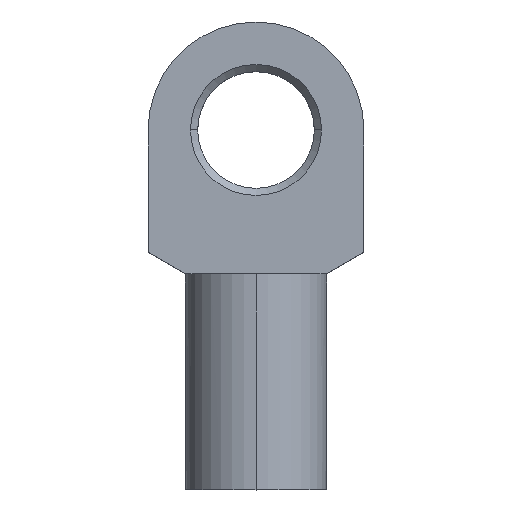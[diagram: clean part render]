
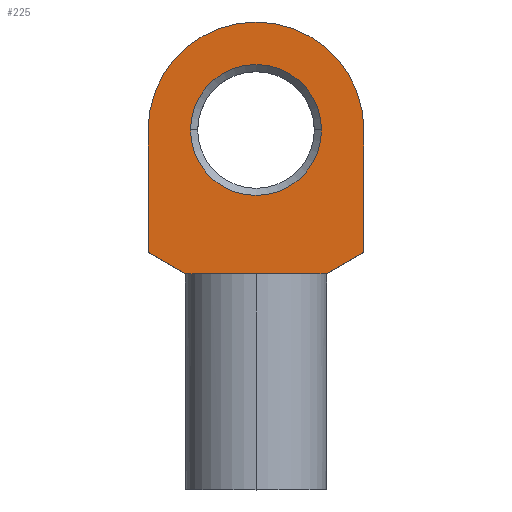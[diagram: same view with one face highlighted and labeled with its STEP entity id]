
A CAD part, top view. The second image highlights one B-rep face of the part: STEP entity #225.
In plain terms, the highlighted planar face has unit normal (0, 0, 1).
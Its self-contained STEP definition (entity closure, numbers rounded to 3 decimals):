
#12 = FACE_OUTER_BOUND ( 'NONE', #374, .T. ) ;
#25 = DIRECTION ( 'NONE',  ( 1., 0., 0. ) ) ;
#43 = EDGE_CURVE ( 'NONE', #141, #724, #185, .T. ) ;
#54 = CARTESIAN_POINT ( 'NONE',  ( -4.214, 15., 2.5 ) ) ;
#56 = EDGE_CURVE ( 'NONE', #382, #442, #308, .T. ) ;
#94 = VECTOR ( 'NONE', #473, 1000. ) ;
#120 = CARTESIAN_POINT ( 'NONE',  ( 4.9, 15., 2.5 ) ) ;
#122 = CIRCLE ( 'NONE', #817, 7.5 ) ;
#124 = EDGE_CURVE ( 'NONE', #532, #559, #743, .T. ) ;
#127 = ORIENTED_EDGE ( 'NONE', *, *, #380, .T. ) ;
#138 = CARTESIAN_POINT ( 'NONE',  ( -4.9, 15., 2.5 ) ) ;
#139 = DIRECTION ( 'NONE',  ( 0., 0., -1. ) ) ;
#141 = VERTEX_POINT ( 'NONE', #54 ) ;
#160 = CARTESIAN_POINT ( 'NONE',  ( 0., 25., 2.5 ) ) ;
#171 = EDGE_LOOP ( 'NONE', ( #632, #573 ) ) ;
#185 = LINE ( 'NONE', #721, #420 ) ;
#202 = ORIENTED_EDGE ( 'NONE', *, *, #655, .T. ) ;
#204 = CARTESIAN_POINT ( 'NONE',  ( 4.55, 25., 2.5 ) ) ;
#210 = DIRECTION ( 'NONE',  ( 1., 0., 0. ) ) ;
#225 = ADVANCED_FACE ( 'NONE', ( #413, #12 ), #257, .T. ) ;
#249 = LINE ( 'NONE', #657, #777 ) ;
#253 = AXIS2_PLACEMENT_3D ( 'NONE', #471, #139, #210 ) ;
#257 = PLANE ( 'NONE',  #451 ) ;
#267 = DIRECTION ( 'NONE',  ( 1., 0., 0. ) ) ;
#268 = DIRECTION ( 'NONE',  ( 1., 0., 0. ) ) ;
#269 = VECTOR ( 'NONE', #753, 1000. ) ;
#308 = CIRCLE ( 'NONE', #253, 4.55 ) ;
#310 = CARTESIAN_POINT ( 'NONE',  ( -4.9, 15., 2.5 ) ) ;
#319 = DIRECTION ( 'NONE',  ( 0., 0., 1. ) ) ;
#323 = VERTEX_POINT ( 'NONE', #120 ) ;
#338 = EDGE_CURVE ( 'NONE', #442, #382, #728, .T. ) ;
#346 = ORIENTED_EDGE ( 'NONE', *, *, #759, .T. ) ;
#374 = EDGE_LOOP ( 'NONE', ( #625, #584, #346, #799, #801, #127, #202, #773 ) ) ;
#377 = LINE ( 'NONE', #528, #493 ) ;
#380 = EDGE_CURVE ( 'NONE', #724, #323, #648, .T. ) ;
#382 = VERTEX_POINT ( 'NONE', #717 ) ;
#395 = CARTESIAN_POINT ( 'NONE',  ( 4.214, 15., 2.5 ) ) ;
#413 = FACE_BOUND ( 'NONE', #171, .T. ) ;
#420 = VECTOR ( 'NONE', #267, 1000. ) ;
#426 = CARTESIAN_POINT ( 'NONE',  ( 7.5, 16.501, 2.5 ) ) ;
#442 = VERTEX_POINT ( 'NONE', #204 ) ;
#451 = AXIS2_PLACEMENT_3D ( 'NONE', #766, #319, #521 ) ;
#468 = DIRECTION ( 'NONE',  ( 0.866, 0.5, 0. ) ) ;
#470 = CARTESIAN_POINT ( 'NONE',  ( 7.5, 16.501, 2.5 ) ) ;
#471 = CARTESIAN_POINT ( 'NONE',  ( 0., 25., 2.5 ) ) ;
#473 = DIRECTION ( 'NONE',  ( 0., 1., 0. ) ) ;
#476 = VERTEX_POINT ( 'NONE', #601 ) ;
#493 = VECTOR ( 'NONE', #603, 1000. ) ;
#503 = CARTESIAN_POINT ( 'NONE',  ( 7.5, 25., 2.5 ) ) ;
#504 = LINE ( 'NONE', #310, #269 ) ;
#521 = DIRECTION ( 'NONE',  ( 1., 0., 0. ) ) ;
#528 = CARTESIAN_POINT ( 'NONE',  ( -7.5, 16.501, 2.5 ) ) ;
#532 = VERTEX_POINT ( 'NONE', #426 ) ;
#535 = AXIS2_PLACEMENT_3D ( 'NONE', #714, #653, #268 ) ;
#539 = DIRECTION ( 'NONE',  ( 1., 0., 0. ) ) ;
#549 = CARTESIAN_POINT ( 'NONE',  ( -7.5, 25., 2.5 ) ) ;
#559 = VERTEX_POINT ( 'NONE', #503 ) ;
#566 = EDGE_CURVE ( 'NONE', #617, #141, #504, .T. ) ;
#573 = ORIENTED_EDGE ( 'NONE', *, *, #56, .T. ) ;
#577 = CARTESIAN_POINT ( 'NONE',  ( -4.9, 15., 2.5 ) ) ;
#584 = ORIENTED_EDGE ( 'NONE', *, *, #744, .T. ) ;
#601 = CARTESIAN_POINT ( 'NONE',  ( -7.5, 16.501, 2.5 ) ) ;
#603 = DIRECTION ( 'NONE',  ( 0.866, -0.5, 0. ) ) ;
#617 = VERTEX_POINT ( 'NONE', #577 ) ;
#625 = ORIENTED_EDGE ( 'NONE', *, *, #754, .T. ) ;
#632 = ORIENTED_EDGE ( 'NONE', *, *, #338, .T. ) ;
#637 = VECTOR ( 'NONE', #654, 1000. ) ;
#648 = LINE ( 'NONE', #138, #791 ) ;
#653 = DIRECTION ( 'NONE',  ( 0., 0., -1. ) ) ;
#654 = DIRECTION ( 'NONE',  ( 0., -1., 0. ) ) ;
#655 = EDGE_CURVE ( 'NONE', #323, #532, #249, .T. ) ;
#657 = CARTESIAN_POINT ( 'NONE',  ( 4.9, 15., 2.5 ) ) ;
#714 = CARTESIAN_POINT ( 'NONE',  ( 0., 25., 2.5 ) ) ;
#717 = CARTESIAN_POINT ( 'NONE',  ( -4.55, 25., 2.5 ) ) ;
#721 = CARTESIAN_POINT ( 'NONE',  ( -4.9, 15., 2.5 ) ) ;
#724 = VERTEX_POINT ( 'NONE', #395 ) ;
#728 = CIRCLE ( 'NONE', #535, 4.55 ) ;
#731 = DIRECTION ( 'NONE',  ( 0., 0., 1. ) ) ;
#743 = LINE ( 'NONE', #470, #94 ) ;
#744 = EDGE_CURVE ( 'NONE', #810, #476, #772, .T. ) ;
#753 = DIRECTION ( 'NONE',  ( 1., 0., 0. ) ) ;
#754 = EDGE_CURVE ( 'NONE', #559, #810, #122, .T. ) ;
#759 = EDGE_CURVE ( 'NONE', #476, #617, #377, .T. ) ;
#766 = CARTESIAN_POINT ( 'NONE',  ( 0., 25., 2.5 ) ) ;
#772 = LINE ( 'NONE', #787, #637 ) ;
#773 = ORIENTED_EDGE ( 'NONE', *, *, #124, .T. ) ;
#777 = VECTOR ( 'NONE', #468, 1000. ) ;
#787 = CARTESIAN_POINT ( 'NONE',  ( -7.5, 25., 2.5 ) ) ;
#791 = VECTOR ( 'NONE', #539, 1000. ) ;
#799 = ORIENTED_EDGE ( 'NONE', *, *, #566, .T. ) ;
#801 = ORIENTED_EDGE ( 'NONE', *, *, #43, .T. ) ;
#810 = VERTEX_POINT ( 'NONE', #549 ) ;
#817 = AXIS2_PLACEMENT_3D ( 'NONE', #160, #731, #25 ) ;
